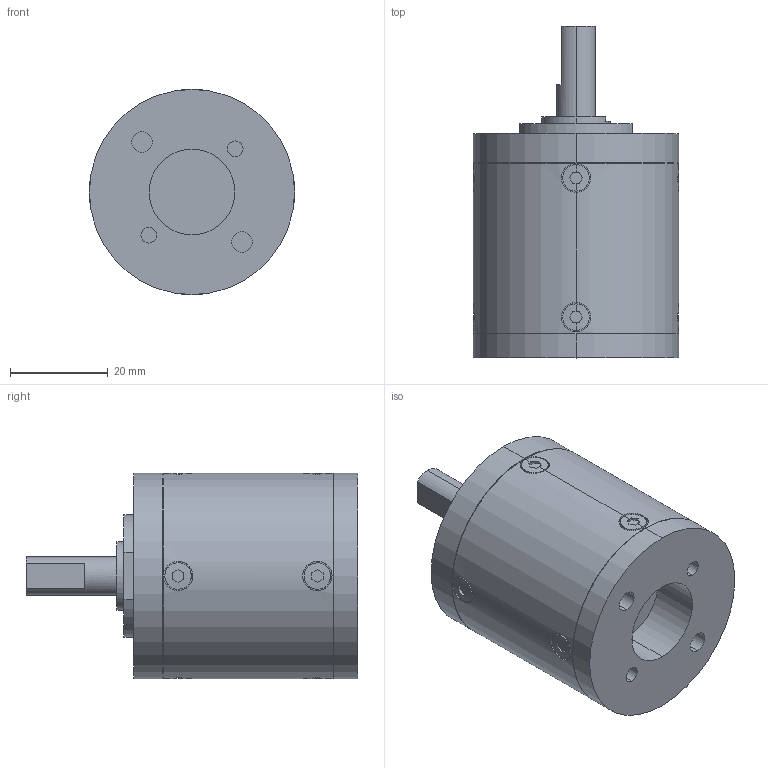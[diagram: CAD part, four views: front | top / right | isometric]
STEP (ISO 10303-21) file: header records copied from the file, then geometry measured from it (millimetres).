
FILE_DESCRIPTION (( 'STEP AP203' ), '1' );
FILE_NAME ('IG-42C-3stage.STEP', '2023-04-13T02:35:58', ( '' ), ( '' ), 'SwSTEP 2.0', 'SolidWorks 2019', '' );
FILE_SCHEMA (( 'CONFIG_CONTROL_DESIGN' ));
Length unit declared in the file: millimetre
Products named in the file (1): IG-42C-3stage
Bounding box: 42 x 67.9 x 42 mm (x, y, z)
Volume: 62438.3 mm3; surface area: 11034.3 mm2
Topology: 1 solids, 1 shells, 172 faces, 413 edges, 272 vertices
Faces by surface type: plane 93, cylinder 75, cone 4
Entity records: 6048 total; most frequent: CARTESIAN_POINT 2008, ORIENTED_EDGE 826, DIRECTION 813, EDGE_CURVE 413, AXIS2_PLACEMENT_3D 305, VERTEX_POINT 272, LINE 203, VECTOR 203
